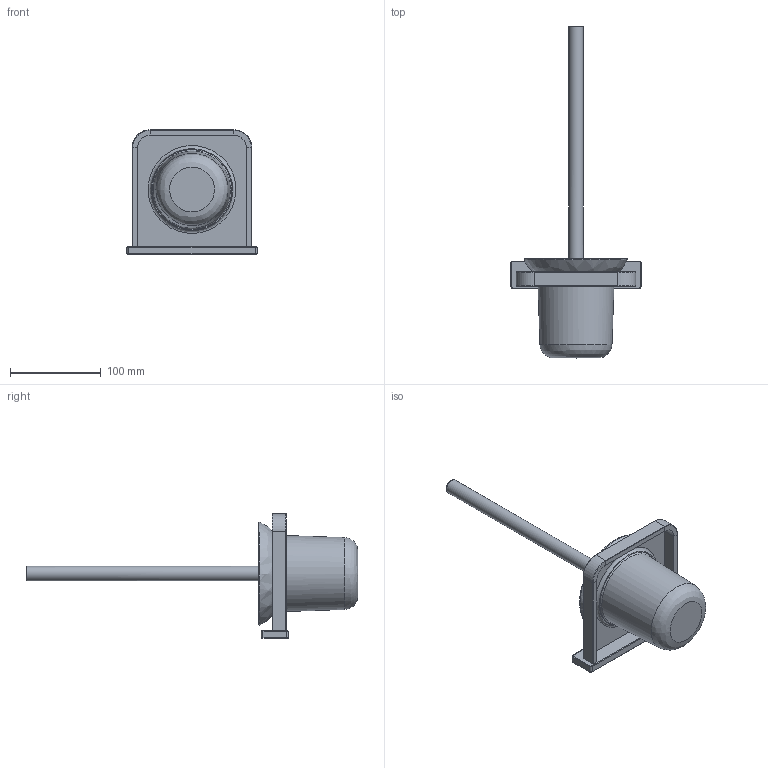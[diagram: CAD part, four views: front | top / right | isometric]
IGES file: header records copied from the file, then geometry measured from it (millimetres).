
Global section: file name: 3f3a6665-751b-42db-94a7-98af29ad64d0.zip; native system: unknown; preprocessor: unknown; author: unknown; organization: unknown; date: 20200107.145133; units: millimetre
Bounding box: 143.7 x 366.76 x 137.5 mm (x, y, z)
Volume: 630058 mm3; surface area: 155551.4 mm2
Topology: 7 solids, 7 shells, 93 faces, 196 edges, 117 vertices
Faces by surface type: bspline 93
